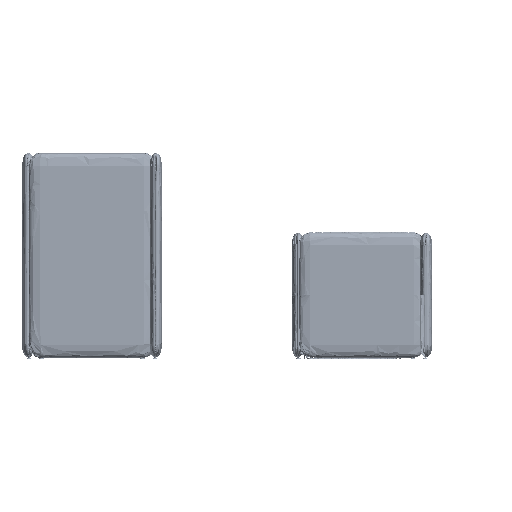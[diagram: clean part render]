
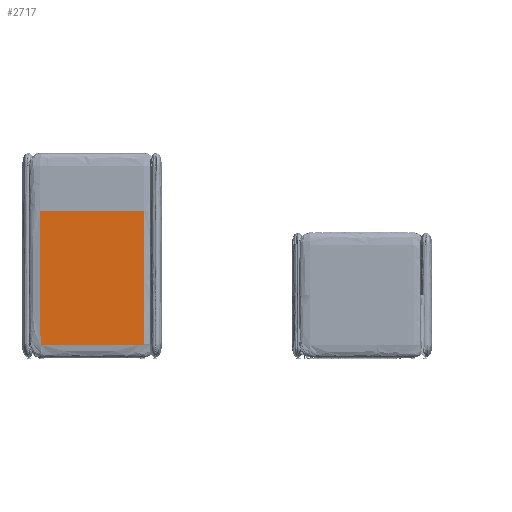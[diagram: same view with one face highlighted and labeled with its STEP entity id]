
A CAD part, left-side view. The second image highlights one B-rep face of the part: STEP entity #2717.
In plain terms, the highlighted planar face has unit normal (-1, 0, 0).
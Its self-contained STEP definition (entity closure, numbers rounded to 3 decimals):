
#415=PLANE($,#23683);
#915=B_SPLINE_CURVE_WITH_KNOTS($,1,(#102135,#102136),.UNSPECIFIED.,.F.,.F.,
(2,2),(-74.4,0.),.UNSPECIFIED.);
#2717=ADVANCED_FACE($,(#4436),#415,.T.);
#4436=FACE_OUTER_BOUND($,#6187,.T.);
#6187=EDGE_LOOP($,(#11952,#11953,#11954));
#11952=ORIENTED_EDGE($,*,*,#16110,.T.);
#11953=ORIENTED_EDGE($,*,*,#16111,.T.);
#11954=ORIENTED_EDGE($,*,*,#16101,.F.);
#16101=EDGE_CURVE($,#18485,#18484,#915,.T.);
#16110=EDGE_CURVE($,#18485,#18490,#22820,.T.);
#16111=EDGE_CURVE($,#18490,#18484,#22821,.T.);
#18484=VERTEX_POINT($,#102611);
#18485=VERTEX_POINT($,#102612);
#18490=VERTEX_POINT($,#102617);
#22820=(
BOUNDED_CURVE()
B_SPLINE_CURVE(3,(#102185,#102186,#102187,#102188,#102189,#102190,#102191,
#102192,#102193,#102194),.UNSPECIFIED.,.F.,.F.)
B_SPLINE_CURVE_WITH_KNOTS((4,3,1,1,1,4),(-85.245,-0.36,
-0.265,-0.174,-0.084,0.),.UNSPECIFIED.)
CURVE()
GEOMETRIC_REPRESENTATION_ITEM()
RATIONAL_B_SPLINE_CURVE((1.,1.,1.,1.,1.,1.,1.,1.,1.,1.))
REPRESENTATION_ITEM($)
);
#22821=(
BOUNDED_CURVE()
B_SPLINE_CURVE(3,(#102195,#102196,#102197,#102198,#102199,#102200,#102201,
#102202,#102203,#102204,#102205,#102206,#102207),.UNSPECIFIED.,.F.,.F.)
B_SPLINE_CURVE_WITH_KNOTS((4,3,1,1,1,3,4),(-417.206,-343.265,
-343.17,-343.079,-342.988,-342.905,
-258.02),.UNSPECIFIED.)
CURVE()
GEOMETRIC_REPRESENTATION_ITEM()
RATIONAL_B_SPLINE_CURVE((1.,1.,1.,1.,1.,1.,1.,1.,1.,1.,1.,1.,1.))
REPRESENTATION_ITEM($)
);
#23683=AXIS2_PLACEMENT_3D($,#102495,#23885,$);
#23885=DIRECTION($,(-1.,0.,0.));
#102135=CARTESIAN_POINT($,(-2010.418,1804.471,972.566));
#102136=CARTESIAN_POINT($,(-2010.316,1122.471,972.566));
#102185=CARTESIAN_POINT($,(-2010.418,1804.471,972.566));
#102186=CARTESIAN_POINT($,(-2010.418,1804.471,681.067));
#102187=CARTESIAN_POINT($,(-2010.418,1804.471,389.569));
#102188=CARTESIAN_POINT($,(-2010.418,1804.471,98.07));
#102189=CARTESIAN_POINT($,(-2010.418,1804.471,97.744));
#102190=CARTESIAN_POINT($,(-2010.418,1804.352,97.106));
#102191=CARTESIAN_POINT($,(-2010.418,1803.856,96.314));
#102192=CARTESIAN_POINT($,(-2010.418,1803.157,95.819));
#102193=CARTESIAN_POINT($,(-2010.418,1802.626,95.709));
#102194=CARTESIAN_POINT($,(-2010.418,1802.37,95.709));
#102195=CARTESIAN_POINT($,(-2010.418,1802.37,95.709));
#102196=CARTESIAN_POINT($,(-2010.384,1576.438,95.709));
#102197=CARTESIAN_POINT($,(-2010.35,1350.505,95.709));
#102198=CARTESIAN_POINT($,(-2010.316,1124.572,95.709));
#102199=CARTESIAN_POINT($,(-2010.316,1124.282,95.709));
#102200=CARTESIAN_POINT($,(-2010.316,1123.714,95.843));
#102201=CARTESIAN_POINT($,(-2010.316,1123.009,96.4));
#102202=CARTESIAN_POINT($,(-2010.316,1122.569,97.186));
#102203=CARTESIAN_POINT($,(-2010.316,1122.471,97.783));
#102204=CARTESIAN_POINT($,(-2010.316,1122.471,98.07));
#102205=CARTESIAN_POINT($,(-2010.316,1122.471,389.569));
#102206=CARTESIAN_POINT($,(-2010.316,1122.471,681.067));
#102207=CARTESIAN_POINT($,(-2010.316,1122.471,972.566));
#102495=CARTESIAN_POINT($,(-2010.419,1811.291,86.941));
#102611=CARTESIAN_POINT($,(-2010.316,1122.471,972.566));
#102612=CARTESIAN_POINT($,(-2010.418,1804.471,972.566));
#102617=CARTESIAN_POINT($,(-2010.418,1802.37,95.709));
